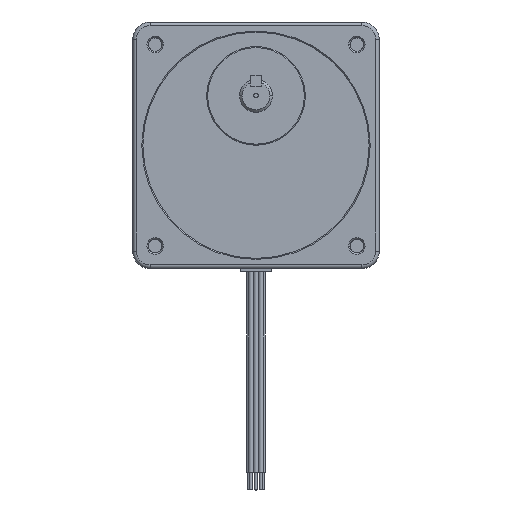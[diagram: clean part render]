
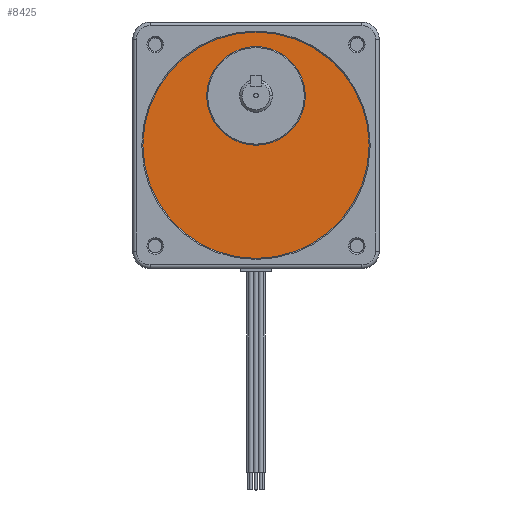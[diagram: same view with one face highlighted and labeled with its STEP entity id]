
A CAD part, top view. The second image highlights one B-rep face of the part: STEP entity #8425.
In plain terms, the highlighted planar face has unit normal (0, 0, 1).
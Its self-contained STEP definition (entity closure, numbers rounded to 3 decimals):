
#7973 = EDGE_CURVE ( 'NONE', #7975, #7985, #11163, .T. ) ;
#7975 = VERTEX_POINT ( 'NONE', #11159 ) ;
#7977 = VERTEX_POINT ( 'NONE', #11182 ) ;
#7979 = VERTEX_POINT ( 'NONE', #11185 ) ;
#7984 = EDGE_CURVE ( 'NONE', #7979, #7977, #11129, .T. ) ;
#7985 = VERTEX_POINT ( 'NONE', #11168 ) ;
#8418 = ORIENTED_EDGE ( 'NONE', *, *, #7984, .F. ) ;
#8423 = ORIENTED_EDGE ( 'NONE', *, *, #8427, .T. ) ;
#8424 = EDGE_LOOP ( 'NONE', ( #8430, #8418 ) ) ;
#8425 = ADVANCED_FACE ( 'NONE', ( #15973, #15972 ), #15976, .T. ) ;
#8426 = ORIENTED_EDGE ( 'NONE', *, *, #7973, .T. ) ;
#8427 = EDGE_CURVE ( 'NONE', #7985, #7975, #16003, .T. ) ;
#8429 = EDGE_CURVE ( 'NONE', #7977, #7979, #15986, .T. ) ;
#8430 = ORIENTED_EDGE ( 'NONE', *, *, #8429, .F. ) ;
#8431 = EDGE_LOOP ( 'NONE', ( #8423, #8426 ) ) ;
#11118 = DIRECTION ( 'NONE',  ( 0., 0., 1. ) ) ;
#11129 = CIRCLE ( 'NONE', #11138, 17.996 ) ;
#11138 = AXIS2_PLACEMENT_3D ( 'NONE', #11166, #11178, #11211 ) ;
#11144 = DIRECTION ( 'NONE',  ( 1., 0., 0. ) ) ;
#11152 = AXIS2_PLACEMENT_3D ( 'NONE', #11164, #11118, #11144 ) ;
#11159 = CARTESIAN_POINT ( 'NONE',  ( -41.275, 0., 59. ) ) ;
#11163 = CIRCLE ( 'NONE', #11152, 41.275 ) ;
#11164 = CARTESIAN_POINT ( 'NONE',  ( 0., 0., 59. ) ) ;
#11166 = CARTESIAN_POINT ( 'NONE',  ( 0., 18.009, 59. ) ) ;
#11168 = CARTESIAN_POINT ( 'NONE',  ( 41.275, 0., 59. ) ) ;
#11178 = DIRECTION ( 'NONE',  ( 0., 0., 1. ) ) ;
#11182 = CARTESIAN_POINT ( 'NONE',  ( -17.996, 18.009, 59. ) ) ;
#11185 = CARTESIAN_POINT ( 'NONE',  ( 17.996, 18.009, 59. ) ) ;
#11211 = DIRECTION ( 'NONE',  ( 1., 0., 0. ) ) ;
#15971 = AXIS2_PLACEMENT_3D ( 'NONE', #15989, #15988, #15987 ) ;
#15972 = FACE_BOUND ( 'NONE', #8424, .T. ) ;
#15973 = FACE_OUTER_BOUND ( 'NONE', #8431, .T. ) ;
#15976 = PLANE ( 'NONE',  #15971 ) ;
#15982 = DIRECTION ( 'NONE',  ( 1., 0., 0. ) ) ;
#15983 = DIRECTION ( 'NONE',  ( 0., 0., 1. ) ) ;
#15984 = CARTESIAN_POINT ( 'NONE',  ( 0., 0., 59. ) ) ;
#15985 = AXIS2_PLACEMENT_3D ( 'NONE', #15984, #15983, #15982 ) ;
#15986 = CIRCLE ( 'NONE', #16036, 17.996 ) ;
#15987 = DIRECTION ( 'NONE',  ( 1., 0., 0. ) ) ;
#15988 = DIRECTION ( 'NONE',  ( 0., 0., 1. ) ) ;
#15989 = CARTESIAN_POINT ( 'NONE',  ( 0., 0., 59. ) ) ;
#16003 = CIRCLE ( 'NONE', #15985, 41.275 ) ;
#16033 = DIRECTION ( 'NONE',  ( 1., 0., 0. ) ) ;
#16034 = DIRECTION ( 'NONE',  ( 0., 0., 1. ) ) ;
#16035 = CARTESIAN_POINT ( 'NONE',  ( 0., 18.009, 59. ) ) ;
#16036 = AXIS2_PLACEMENT_3D ( 'NONE', #16035, #16034, #16033 ) ;
